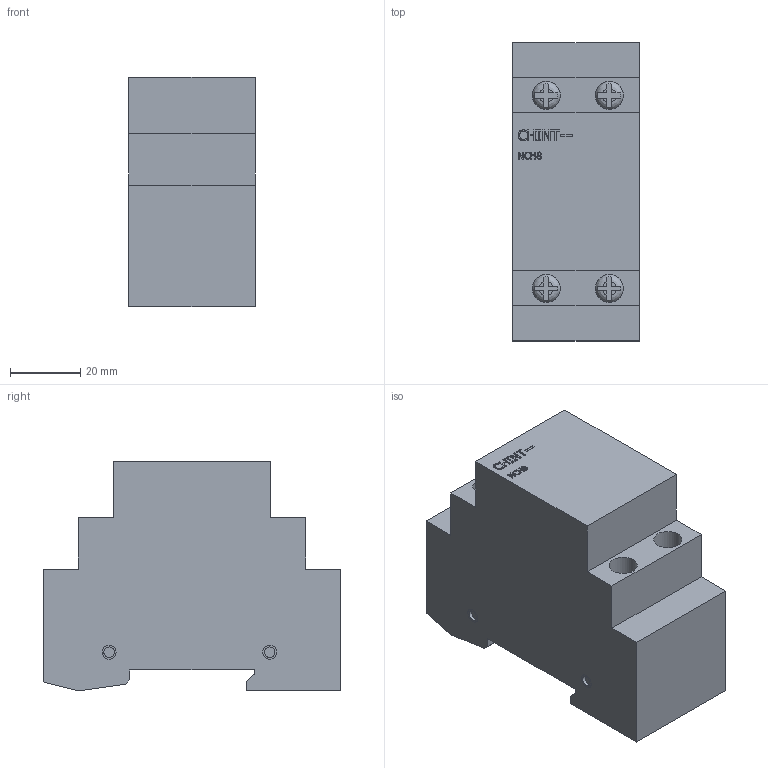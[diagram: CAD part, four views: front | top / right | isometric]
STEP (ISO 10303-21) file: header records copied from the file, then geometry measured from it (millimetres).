
FILE_DESCRIPTION(/* description */ (''),/* implementation_level */ '2;1');
FILE_NAME(/* name */ 'D:\CHINT\NCH8\Мод. контактор NCH8 2P (CHINT).stp',/* time_stamp */ '2017-09-24T20:40:05+04:00',/* author */ ('RSagdiev'),/* organization */ (''),/* preprocessor_version */ 'ST-DEVELOPER v16.5',/* originating_system */ 'Autodesk Inventor 2017',/* authorisation */ '');
FILE_SCHEMA (('AUTOMOTIVE_DESIGN { 1 0 10303 214 3 1 1 }'));
Length unit declared in the file: millimetre
Products named in the file (1): Свет. \X2\0438043D04340438043A04300442
043E0440\X0\ NP9 2P (CHINT)
Bounding box: 36 x 85 x 65.6 mm (x, y, z)
Surface area: 43232.7 mm2
Topology: 14 solids, 18 shells, 327 faces, 789 edges, 526 vertices
Faces by surface type: plane 232, bspline 55, cylinder 40
Full cylindrical faces by diameter (mm): 3 x8, 4 x20, 8 x12
Entity records: 9948 total; most frequent: CARTESIAN_POINT 2691, ORIENTED_EDGE 1498, DIRECTION 1277, EDGE_CURVE 749, VERTEX_POINT 526, LINE 491, VECTOR 491, EDGE_LOOP 411
